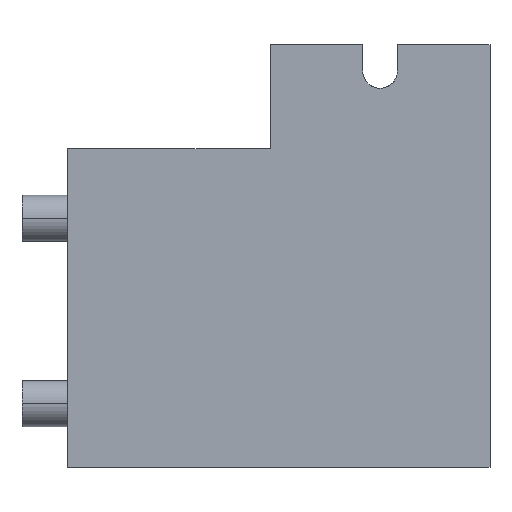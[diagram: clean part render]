
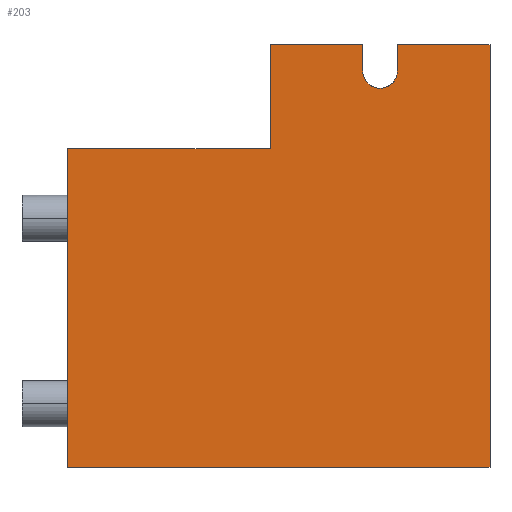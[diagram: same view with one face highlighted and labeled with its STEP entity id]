
A CAD part, left-side view. The second image highlights one B-rep face of the part: STEP entity #203.
In plain terms, the highlighted planar face has unit normal (-1, 0, 0).
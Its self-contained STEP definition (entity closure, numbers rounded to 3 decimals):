
#203=ADVANCED_FACE('EGT_178_RD30_K50_63_HU_ET.1_Hauptk\X2\00F6\X0\rper',(#478),#479,.F.);
#478=FACE_OUTER_BOUND('',#864,.T.);
#479=PLANE('',#865);
#864=EDGE_LOOP('',(#1322,#1323,#1324,#1325,#1326,#1327,#1328,#1329,#1330,#1331));
#865=AXIS2_PLACEMENT_3D('',#1332,#1333,#1334);
#1322=ORIENTED_EDGE('',*,*,#2273,.F.);
#1323=ORIENTED_EDGE('',*,*,#2274,.T.);
#1324=ORIENTED_EDGE('',*,*,#2275,.T.);
#1325=ORIENTED_EDGE('',*,*,#2276,.T.);
#1326=ORIENTED_EDGE('',*,*,#2277,.F.);
#1327=ORIENTED_EDGE('',*,*,#2278,.F.);
#1328=ORIENTED_EDGE('',*,*,#2279,.F.);
#1329=ORIENTED_EDGE('',*,*,#2255,.F.);
#1330=ORIENTED_EDGE('',*,*,#2269,.F.);
#1331=ORIENTED_EDGE('',*,*,#2280,.F.);
#1332=CARTESIAN_POINT('',(-25.0,0.0,0.0));
#1333=DIRECTION('',(1.0,-0.0,0.0));
#1334=DIRECTION('',(0.0,0.0,-1.0));
#2255=EDGE_CURVE('',#2711,#2714,#2715,.T.);
#2269=EDGE_CURVE('',#2733,#2711,#2736,.T.);
#2273=EDGE_CURVE('',#2740,#2741,#2742,.T.);
#2274=EDGE_CURVE('',#2740,#2743,#2744,.T.);
#2275=EDGE_CURVE('',#2743,#2745,#2746,.T.);
#2276=EDGE_CURVE('',#2745,#2747,#2748,.T.);
#2277=EDGE_CURVE('',#2749,#2747,#2750,.T.);
#2278=EDGE_CURVE('',#2751,#2749,#2752,.T.);
#2279=EDGE_CURVE('',#2714,#2751,#2753,.T.);
#2280=EDGE_CURVE('',#2741,#2733,#2754,.T.);
#2711=VERTEX_POINT('',#3722);
#2714=VERTEX_POINT('',#3726);
#2715=B_SPLINE_CURVE_WITH_KNOTS('',1,(#3727,#3728),.UNSPECIFIED.,.F.,.F.,(2,2),(0.0,1.0),.UNSPECIFIED.);
#2733=VERTEX_POINT('',#3828);
#2736=B_SPLINE_CURVE_WITH_KNOTS('',1,(#3832,#3833),.UNSPECIFIED.,.F.,.F.,(2,2),(0.,1.0),.UNSPECIFIED.);
#2740=VERTEX_POINT('',#3849);
#2741=VERTEX_POINT('',#3850);
#2742=B_SPLINE_CURVE_WITH_KNOTS('',1,(#3851,#3852),.UNSPECIFIED.,.F.,.F.,(2,2),(0.0,1.0),.UNSPECIFIED.);
#2743=VERTEX_POINT('',#3853);
#2744=B_SPLINE_CURVE_WITH_KNOTS('',1,(#3854,#3855),.UNSPECIFIED.,.F.,.F.,(2,2),(0.0,1.0),.UNSPECIFIED.);
#2745=VERTEX_POINT('',#3856);
#2746=(B_SPLINE_CURVE(2,(#3858,#3859,#3860,#3861,#3862),.UNSPECIFIED.,.F.,.F.)B_SPLINE_CURVE_WITH_KNOTS((3,2,3),(0.0,1.571,3.142),.UNSPECIFIED.)RATIONAL_B_SPLINE_CURVE((1.0,0.707,1.0,0.707,1.0))BOUNDED_CURVE()REPRESENTATION_ITEM('')GEOMETRIC_REPRESENTATION_ITEM()CURVE());
#2747=VERTEX_POINT('',#3869);
#2748=B_SPLINE_CURVE_WITH_KNOTS('',1,(#3870,#3871),.UNSPECIFIED.,.F.,.F.,(2,2),(0.0,1.0),.UNSPECIFIED.);
#2749=VERTEX_POINT('',#3872);
#2750=B_SPLINE_CURVE_WITH_KNOTS('',1,(#3873,#3874),.UNSPECIFIED.,.F.,.F.,(2,2),(0.0,1.0),.UNSPECIFIED.);
#2751=VERTEX_POINT('',#3875);
#2752=B_SPLINE_CURVE_WITH_KNOTS('',1,(#3876,#3877),.UNSPECIFIED.,.F.,.F.,(2,2),(0.0,1.0),.UNSPECIFIED.);
#2753=B_SPLINE_CURVE_WITH_KNOTS('',1,(#3878,#3879),.UNSPECIFIED.,.F.,.F.,(2,2),(0.0,1.0),.UNSPECIFIED.);
#2754=B_SPLINE_CURVE_WITH_KNOTS('',1,(#3880,#3881),.UNSPECIFIED.,.F.,.F.,(2,2),(0.0,1.0),.UNSPECIFIED.);
#3722=CARTESIAN_POINT('',(-25.0,54.0,-57.0));
#3726=CARTESIAN_POINT('',(-25.0,54.0,-2.0));
#3727=CARTESIAN_POINT('',(-25.0,54.0,-57.0));
#3728=CARTESIAN_POINT('',(-25.0,54.0,-2.0));
#3828=CARTESIAN_POINT('',(-25.0,-19.0,-57.0));
#3832=CARTESIAN_POINT('',(-25.0,-19.0,-57.0));
#3833=CARTESIAN_POINT('',(-25.0,54.0,-57.0));
#3849=CARTESIAN_POINT('',(-25.0,-3.0,16.0));
#3850=CARTESIAN_POINT('',(-25.0,-19.0,16.0));
#3851=CARTESIAN_POINT('',(-25.0,-3.0,16.0));
#3852=CARTESIAN_POINT('',(-25.0,-19.0,16.0));
#3853=CARTESIAN_POINT('',(-25.0,-3.,11.5));
#3854=CARTESIAN_POINT('',(-25.0,-3.,16.0));
#3855=CARTESIAN_POINT('',(-25.0,-3.,11.5));
#3856=CARTESIAN_POINT('',(-25.0,3.0,11.5));
#3858=CARTESIAN_POINT('',(-25.0,-3.0,11.5));
#3859=CARTESIAN_POINT('',(-25.0,-3.0,8.5));
#3860=CARTESIAN_POINT('',(-25.0,0.,8.5));
#3861=CARTESIAN_POINT('',(-25.0,3.0,8.5));
#3862=CARTESIAN_POINT('',(-25.0,3.0,11.5));
#3869=CARTESIAN_POINT('',(-25.0,3.0,16.0));
#3870=CARTESIAN_POINT('',(-25.0,3.0,11.5));
#3871=CARTESIAN_POINT('',(-25.0,3.0,16.0));
#3872=CARTESIAN_POINT('',(-25.0,19.0,16.0));
#3873=CARTESIAN_POINT('',(-25.0,19.0,16.0));
#3874=CARTESIAN_POINT('',(-25.0,3.0,16.0));
#3875=CARTESIAN_POINT('',(-25.0,19.0,-2.0));
#3876=CARTESIAN_POINT('',(-25.0,19.0,-2.0));
#3877=CARTESIAN_POINT('',(-25.0,19.0,16.0));
#3878=CARTESIAN_POINT('',(-25.0,54.0,-2.0));
#3879=CARTESIAN_POINT('',(-25.0,19.0,-2.0));
#3880=CARTESIAN_POINT('',(-25.0,-19.0,16.0));
#3881=CARTESIAN_POINT('',(-25.0,-19.0,-57.0));
